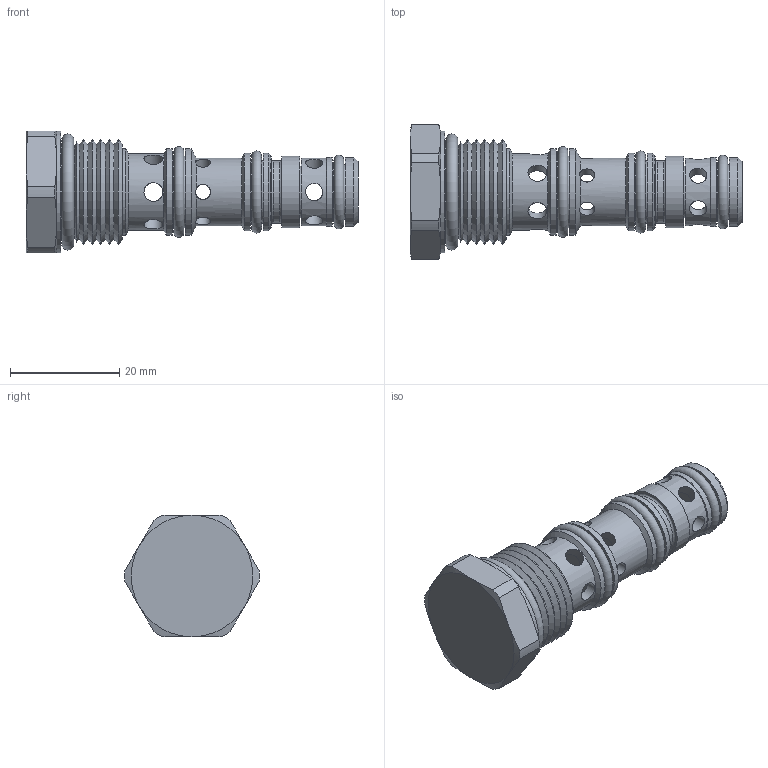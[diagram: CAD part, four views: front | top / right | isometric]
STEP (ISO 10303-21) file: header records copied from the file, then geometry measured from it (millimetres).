
FILE_DESCRIPTION((''),'2;1');
FILE_NAME('Q:\Delta CADD Insertion Codes\3D Solid models\Mechanical Valves\DWG\PQCDP00.stp','2012-12-06T13:19:51',('Dan'),(''),'Autodesk Inventor 2012','Autodesk Inventor 2012','');
FILE_SCHEMA(('AUTOMOTIVE_DESIGN { 1 0 10303 214 1 1 1 1 }'));
Length unit declared in the file: inch
Products named in the file (6): Assembly12; Part152; Part154; Part156; Part158; Part160
Assembly tree (5 placements, depth 2):
  Assembly12
    Part152
    Part154
    Part156
    Part158
    Part160
Bounding box: 60.67 x 24.63 x 22.23 mm (x, y, z)
Volume: 10545 mm3; surface area: 6475.2 mm2
Topology: 5 solids, 5 shells, 117 faces, 272 edges, 166 vertices
Faces by surface type: cylinder 48, cone 33, plane 28, torus 8
Full cylindrical faces by diameter (mm): 2.769 x6, 3.175 x6, 3.454 x6, 5.969 x1, 7.925 x2, 8.738 x1, 9.449 x1, 9.881 x1, 10.16 x1, 11.455 x2, 12.294 x1, 12.421 x1, 12.624 x2, 13.056 x1, 13.081 x2, 14.021 x1, 14.199 x2, 15.799 x2, 15.824 x1, 16.751 x1, 22.225 x1
Entity records: 4170 total; most frequent: CARTESIAN_POINT 1752, DIRECTION 474, ORIENTED_EDGE 362, AXIS2_PLACEMENT_3D 231, EDGE_LOOP 228, EDGE_CURVE 181, VERTEX_POINT 147, FACE_OUTER_BOUND 117
